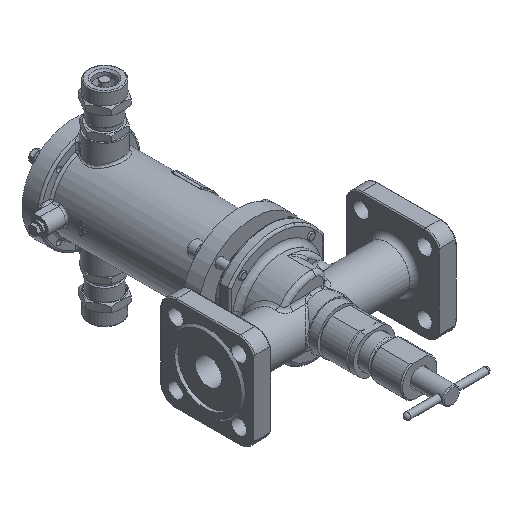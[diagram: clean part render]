
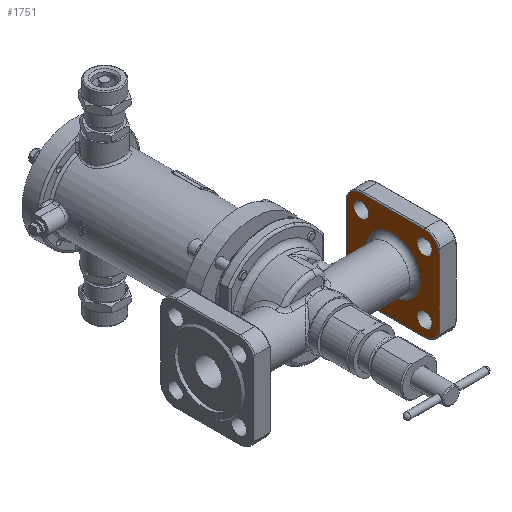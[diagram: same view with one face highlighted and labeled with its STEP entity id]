
A CAD part, isometric view. The second image highlights one B-rep face of the part: STEP entity #1751.
In plain terms, the highlighted planar face has unit normal (-1, 0, 0).
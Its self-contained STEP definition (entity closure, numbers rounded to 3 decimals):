
#1751=ADVANCED_FACE('',(#18654,#18656,#18658,#18660,#18662,#18664),#18666,.T.);
#18654=FACE_BOUND('',#18655,.T.);
#18655=EDGE_LOOP('',(#29827));
#18656=FACE_BOUND('',#18657,.T.);
#18657=EDGE_LOOP('',(#29828));
#18658=FACE_BOUND('',#18659,.T.);
#18659=EDGE_LOOP('',(#29829));
#18660=FACE_BOUND('',#18661,.T.);
#18661=EDGE_LOOP('',(#29830));
#18662=FACE_BOUND('',#18663,.T.);
#18663=EDGE_LOOP('',(#29831));
#18664=FACE_OUTER_BOUND('',#18665,.T.);
#18665=EDGE_LOOP('',(#29832,#29833,#29834,#29835,#29836,#29837,#29838,#29839));
#18666=PLANE('',#18667);
#18667=AXIS2_PLACEMENT_3D('',#18668,#18669,#18670);
#18668=CARTESIAN_POINT('',(80.,0.,0.));
#18669=DIRECTION('',(-1.,0.,0.));
#18670=DIRECTION('',(0.,1.,0.));
#29827=ORIENTED_EDGE('',*,*,#36830,.F.);
#29828=ORIENTED_EDGE('',*,*,#36884,.T.);
#29829=ORIENTED_EDGE('',*,*,#36885,.T.);
#29830=ORIENTED_EDGE('',*,*,#36886,.T.);
#29831=ORIENTED_EDGE('',*,*,#36887,.T.);
#29832=ORIENTED_EDGE('',*,*,#36888,.T.);
#29833=ORIENTED_EDGE('',*,*,#36889,.T.);
#29834=ORIENTED_EDGE('',*,*,#36890,.T.);
#29835=ORIENTED_EDGE('',*,*,#36891,.T.);
#29836=ORIENTED_EDGE('',*,*,#36892,.T.);
#29837=ORIENTED_EDGE('',*,*,#36893,.T.);
#29838=ORIENTED_EDGE('',*,*,#36894,.T.);
#29839=ORIENTED_EDGE('',*,*,#36895,.T.);
#36830=EDGE_CURVE('',#44720,#44720,#44722,.T.);
#36884=EDGE_CURVE('',#44795,#44795,#44796,.T.);
#36885=EDGE_CURVE('',#44797,#44797,#44798,.T.);
#36886=EDGE_CURVE('',#44799,#44799,#44800,.T.);
#36887=EDGE_CURVE('',#44801,#44801,#44802,.T.);
#36888=EDGE_CURVE('',#44803,#44804,#44805,.F.);
#36889=EDGE_CURVE('',#44804,#44806,#44807,.F.);
#36890=EDGE_CURVE('',#44806,#44808,#44809,.T.);
#36891=EDGE_CURVE('',#44808,#44810,#44811,.F.);
#36892=EDGE_CURVE('',#44810,#44812,#44813,.T.);
#36893=EDGE_CURVE('',#44812,#44814,#44815,.F.);
#36894=EDGE_CURVE('',#44814,#44816,#44817,.T.);
#36895=EDGE_CURVE('',#44816,#44803,#44818,.F.);
#44720=VERTEX_POINT('',#70662);
#44722=CIRCLE('',#70667,26.);
#44795=VERTEX_POINT('',#71213);
#44796=CIRCLE('',#71214,7.);
#44797=VERTEX_POINT('',#71218);
#44798=CIRCLE('',#71219,7.);
#44799=VERTEX_POINT('',#71223);
#44800=CIRCLE('',#71224,7.);
#44801=VERTEX_POINT('',#71228);
#44802=CIRCLE('',#71229,7.);
#44803=VERTEX_POINT('',#71233);
#44804=VERTEX_POINT('',#71234);
#44805=LINE('',#71235,#71236);
#44806=VERTEX_POINT('',#71238);
#44807=CIRCLE('',#71239,14.);
#44808=VERTEX_POINT('',#71243);
#44809=LINE('',#71244,#71245);
#44810=VERTEX_POINT('',#71247);
#44811=CIRCLE('',#71248,14.);
#44812=VERTEX_POINT('',#71252);
#44813=LINE('',#71253,#71254);
#44814=VERTEX_POINT('',#71256);
#44815=CIRCLE('',#71257,14.);
#44816=VERTEX_POINT('',#71261);
#44817=LINE('',#71262,#71263);
#44818=CIRCLE('',#71265,14.);
#70662=CARTESIAN_POINT('',(80.,26.,0.));
#70667=AXIS2_PLACEMENT_3D('',#70668,#70669,#70670);
#70668=CARTESIAN_POINT('',(80.,0.,0.));
#70669=DIRECTION('',(-1.,0.,0.));
#70670=DIRECTION('',(0.,1.,0.));
#71213=CARTESIAN_POINT('',(80.,30.052,37.052));
#71214=AXIS2_PLACEMENT_3D('',#71215,#71216,#71217);
#71215=CARTESIAN_POINT('',(80.,30.052,30.052));
#71216=DIRECTION('',(1.,0.,0.));
#71217=DIRECTION('',(0.,0.,1.));
#71218=CARTESIAN_POINT('',(80.,-30.052,37.052));
#71219=AXIS2_PLACEMENT_3D('',#71220,#71221,#71222);
#71220=CARTESIAN_POINT('',(80.,-30.052,30.052));
#71221=DIRECTION('',(1.,0.,0.));
#71222=DIRECTION('',(0.,0.,1.));
#71223=CARTESIAN_POINT('',(80.,-30.052,-23.052));
#71224=AXIS2_PLACEMENT_3D('',#71225,#71226,#71227);
#71225=CARTESIAN_POINT('',(80.,-30.052,-30.052));
#71226=DIRECTION('',(1.,0.,0.));
#71227=DIRECTION('',(0.,0.,1.));
#71228=CARTESIAN_POINT('',(80.,30.052,-23.052));
#71229=AXIS2_PLACEMENT_3D('',#71230,#71231,#71232);
#71230=CARTESIAN_POINT('',(80.,30.052,-30.052));
#71231=DIRECTION('',(1.,0.,0.));
#71232=DIRECTION('',(0.,0.,1.));
#71233=CARTESIAN_POINT('',(80.,-44.,-30.));
#71234=CARTESIAN_POINT('',(80.,-44.,30.));
#71235=CARTESIAN_POINT('',(80.,-44.,30.));
#71236=VECTOR('',#71237,1.);
#71237=DIRECTION('',(0.,0.,-1.));
#71238=CARTESIAN_POINT('',(80.,-30.,44.));
#71239=AXIS2_PLACEMENT_3D('',#71240,#71241,#71242);
#71240=CARTESIAN_POINT('',(80.,-30.,30.));
#71241=DIRECTION('',(1.,0.,0.));
#71242=DIRECTION('',(0.,0.,1.));
#71243=CARTESIAN_POINT('',(80.,30.,44.));
#71244=CARTESIAN_POINT('',(80.,-30.,44.));
#71245=VECTOR('',#71246,1.);
#71246=DIRECTION('',(0.,1.,0.));
#71247=CARTESIAN_POINT('',(80.,44.,30.));
#71248=AXIS2_PLACEMENT_3D('',#71249,#71250,#71251);
#71249=CARTESIAN_POINT('',(80.,30.,30.));
#71250=DIRECTION('',(1.,0.,0.));
#71251=DIRECTION('',(0.,1.,0.));
#71252=CARTESIAN_POINT('',(80.,44.,-30.));
#71253=CARTESIAN_POINT('',(80.,44.,30.));
#71254=VECTOR('',#71255,1.);
#71255=DIRECTION('',(0.,0.,-1.));
#71256=CARTESIAN_POINT('',(80.,30.,-44.));
#71257=AXIS2_PLACEMENT_3D('',#71258,#71259,#71260);
#71258=CARTESIAN_POINT('',(80.,30.,-30.));
#71259=DIRECTION('',(1.,0.,0.));
#71260=DIRECTION('',(0.,0.,-1.));
#71261=CARTESIAN_POINT('',(80.,-30.,-44.));
#71262=CARTESIAN_POINT('',(80.,30.,-44.));
#71263=VECTOR('',#71264,1.);
#71264=DIRECTION('',(0.,-1.,0.));
#71265=AXIS2_PLACEMENT_3D('',#71266,#71267,#71268);
#71266=CARTESIAN_POINT('',(80.,-30.,-30.));
#71267=DIRECTION('',(1.,0.,0.));
#71268=DIRECTION('',(0.,-1.,0.));
